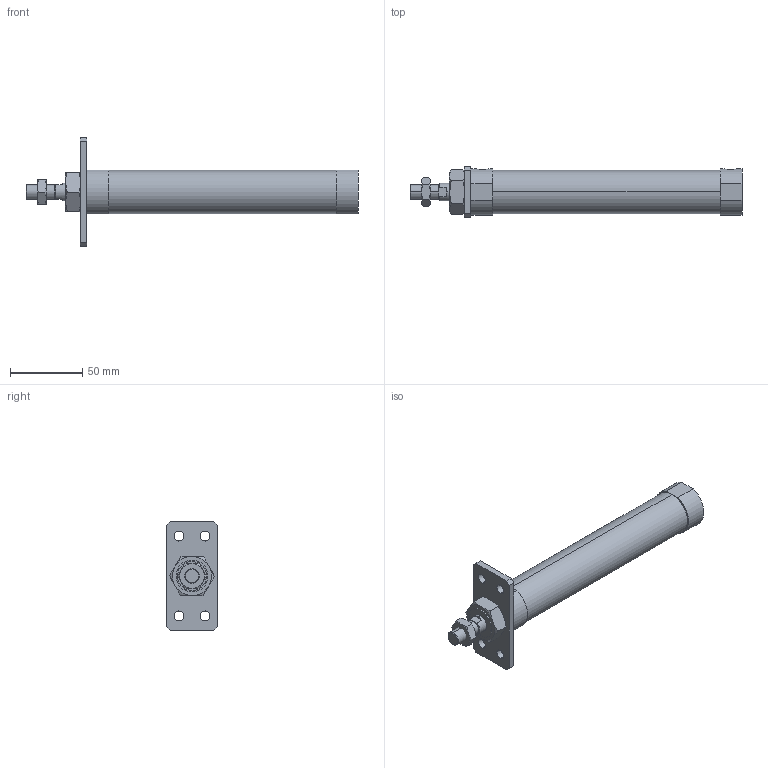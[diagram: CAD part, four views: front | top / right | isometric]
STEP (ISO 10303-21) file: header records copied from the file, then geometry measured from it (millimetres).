
FILE_DESCRIPTION (( 'STEP AP203' ), '1' );
FILE_NAME ('JGND2-25-125-A.STEP', '2016-08-04T02:41:03', ( '' ), ( '' ), 'SwSTEP 2.0', 'SolidWorks 2014', '' );
FILE_SCHEMA (( 'CONFIG_CONTROL_DESIGN' ));
Length unit declared in the file: millimetre
Products named in the file (5): J#2-25-A; JGND2-25-125-A; J#2-25-125(P)
Assembly tree (4 placements, depth 2):
  JGND2-25-125-A
    J#2-25-125(P)
    (unnamed)
    (unnamed)
    J#2-25-A
Bounding box: 229 x 35 x 75 mm (x, y, z)
Volume: 153470.2 mm3; surface area: 31479.3 mm2
Topology: 4 solids, 4 shells, 109 faces, 252 edges, 152 vertices
Faces by surface type: plane 45, cylinder 32, torus 24, cone 8
Entity records: 3913 total; most frequent: CARTESIAN_POINT 956, DIRECTION 516, ORIENTED_EDGE 496, EDGE_CURVE 248, AXIS2_PLACEMENT_3D 208, VERTEX_POINT 152, EDGE_LOOP 128, ADVANCED_FACE 109
